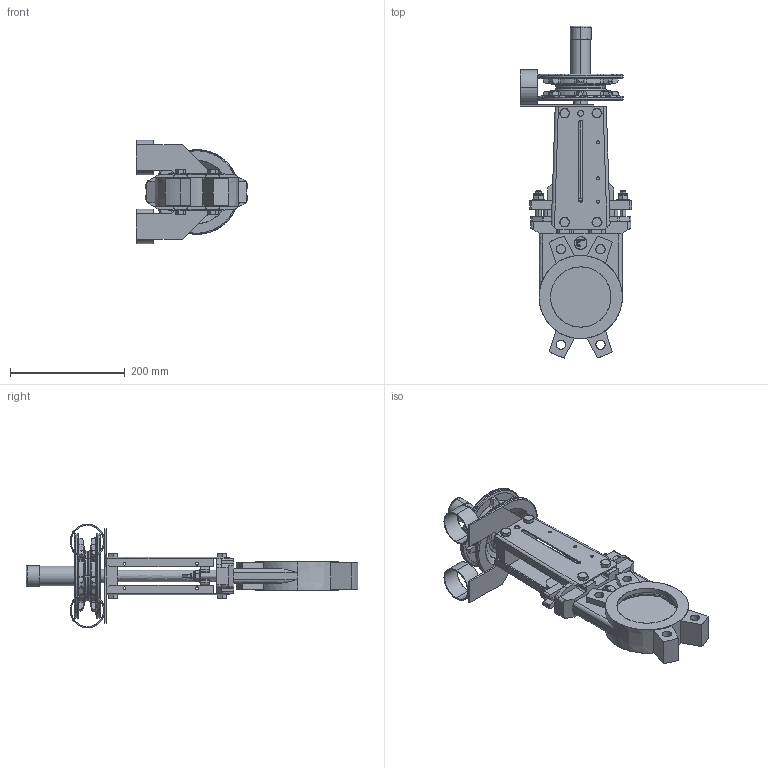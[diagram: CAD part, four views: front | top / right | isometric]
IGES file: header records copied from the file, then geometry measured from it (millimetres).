
Start section: SolidWorks IGES file using analytic representation for surfaces
Global section: file name: D:\part\3D Projects\VG-CHAIN HANDWHEEL(DN50-600)\VG C DN100\VG C DN100.IGS; native system: SolidWorks 2009; preprocessor: SolidWorks 2009; author: zhixin.zheng; date: 100127.135005; units: millimetre
Bounding box: 193.5 x 578.16 x 180.3 mm (x, y, z)
Surface area: 453732.8 mm2 (no closed solid volume)
Topology: 0 solids, 0 shells, 870 faces, 9340 edges, 9340 vertices
Faces by surface type: bspline 470, revolution 400
